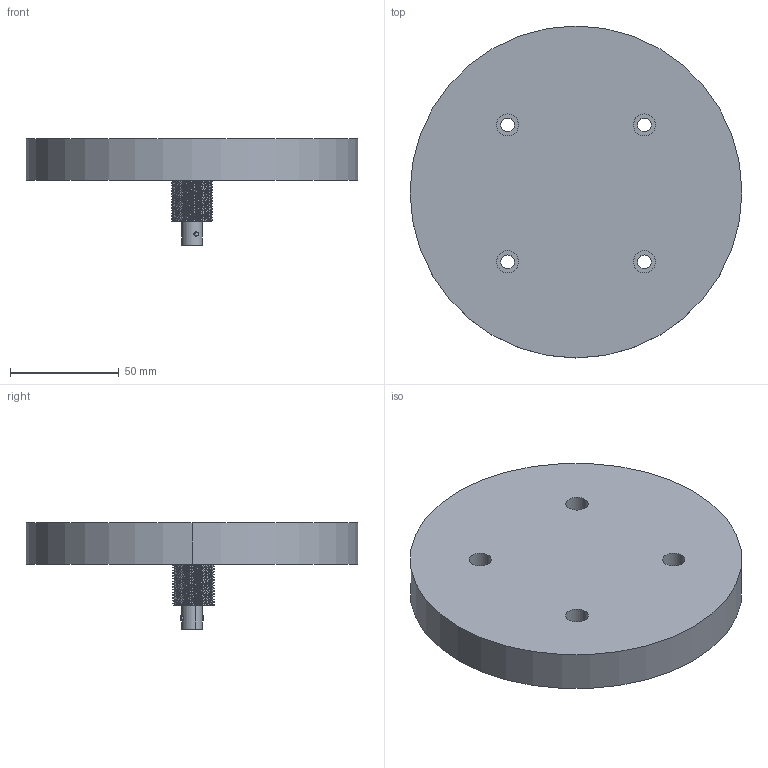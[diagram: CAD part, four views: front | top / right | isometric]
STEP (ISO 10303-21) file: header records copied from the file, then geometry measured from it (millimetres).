
FILE_DESCRIPTION (( 'STEP AP203' ), '1' );
FILE_NAME ('60U1.STEP', '2010-03-05T19:01:34', ( 'tom edwards' ), ( 'Tom J. Edwards' ), 'SwSTEP 2.0', 'SolidWorks 2008', '' );
FILE_SCHEMA (( 'CONFIG_CONTROL_DESIGN' ));
Length unit declared in the file: millimetre
Products named in the file (3): 60U1; 60U1_Thread Runout; bnc
Assembly tree (2 placements, depth 2):
  60U1
    60U1_Thread Runout
    bnc
Bounding box: 152.4 x 152.4 x 48.87 mm (x, y, z)
Volume: 349868.8 mm3; surface area: 50763.7 mm2
Topology: 3 solids, 3 shells, 107 faces, 256 edges, 168 vertices
Faces by surface type: cylinder 71, plane 20, torus 8, bspline 7, cone 1
Entity records: 8512 total; most frequent: CARTESIAN_POINT 5852, ORIENTED_EDGE 512, DIRECTION 485, EDGE_CURVE 256, AXIS2_PLACEMENT_3D 206, VERTEX_POINT 168, EDGE_LOOP 130, FACE_OUTER_BOUND 107
